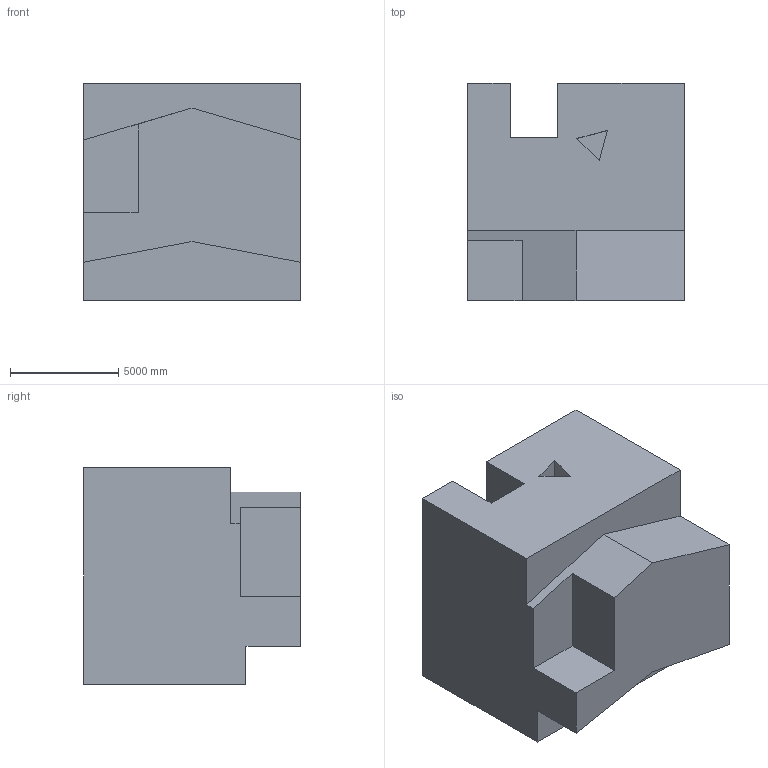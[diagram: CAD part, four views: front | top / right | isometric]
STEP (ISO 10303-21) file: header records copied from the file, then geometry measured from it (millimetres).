
FILE_DESCRIPTION (( 'STEP AP203' ), '1' );
FILE_NAME ('294.STEP', '2022-09-07T12:40:39', ( 'user' ), ( '' ), 'SwSTEP 2.0', 'SolidWorks 2021', '' );
FILE_SCHEMA (( 'CONFIG_CONTROL_DESIGN' ));
Length unit declared in the file: centimetre
Products named in the file (1): 294
Bounding box: 10000 x 10000 x 10000 mm (x, y, z)
Volume: 800592189344.2 mm3; surface area: 631632565.4 mm2
Topology: 1 solids, 1 shells, 23 faces, 60 edges, 40 vertices
Faces by surface type: plane 23
Entity records: 771 total; most frequent: CARTESIAN_POINT 124, ORIENTED_EDGE 120, DIRECTION 108, EDGE_CURVE 60, VECTOR 60, LINE 60, VERTEX_POINT 40, EDGE_LOOP 24
